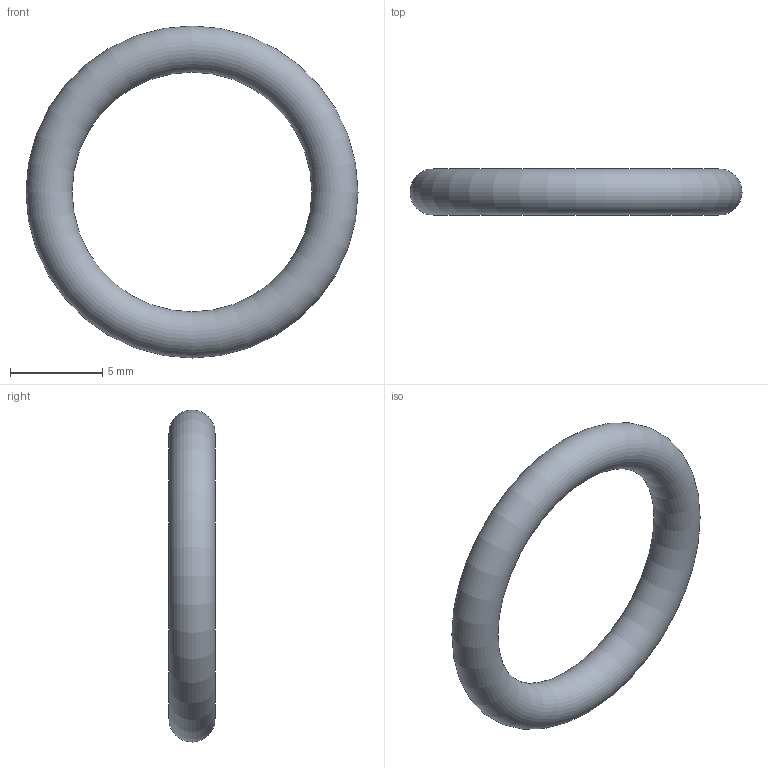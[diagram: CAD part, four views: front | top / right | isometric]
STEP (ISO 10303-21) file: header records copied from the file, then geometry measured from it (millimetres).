
FILE_DESCRIPTION( ( 'STEP AP203' ), '1' );
FILE_NAME( 'C:/Temp/Ganter_Step_05_03_2020/data/3_5/or638/O-Ring OR638-13.00-2.50-70.stp', '2020-03-12T13:44:27', ( 'License CC BY-ND 4.0' ), ( 'CADENAS' ), ' ', 'PARTsolutions', ' ' );
FILE_SCHEMA( ( 'CONFIG_CONTROL_DESIGN' ) );
Length unit declared in the file: millimetre
Products named in the file (1): _O-Ring OR638-13.00-2.50-70
Bounding box: 18 x 2.5 x 18 mm (x, y, z)
Volume: 239 mm3; surface area: 382.4 mm2
Topology: 1 solids, 1 shells, 1 faces, 2 edges, 1 vertices
Faces by surface type: torus 1
Entity records: 62 total; most frequent: CC_DESIGN_PERSON_AND_ORGANIZATION_ASSIGNMENT 5, PERSON_AND_ORGANIZATION_ROLE 4, DIRECTION 4, CARTESIAN_POINT 3, DATE_TIME_ROLE 2, CC_DESIGN_DATE_AND_TIME_ASSIGNMENT 2, AXIS2_PLACEMENT_3D 2, DIMENSIONAL_EXPONENTS 2
